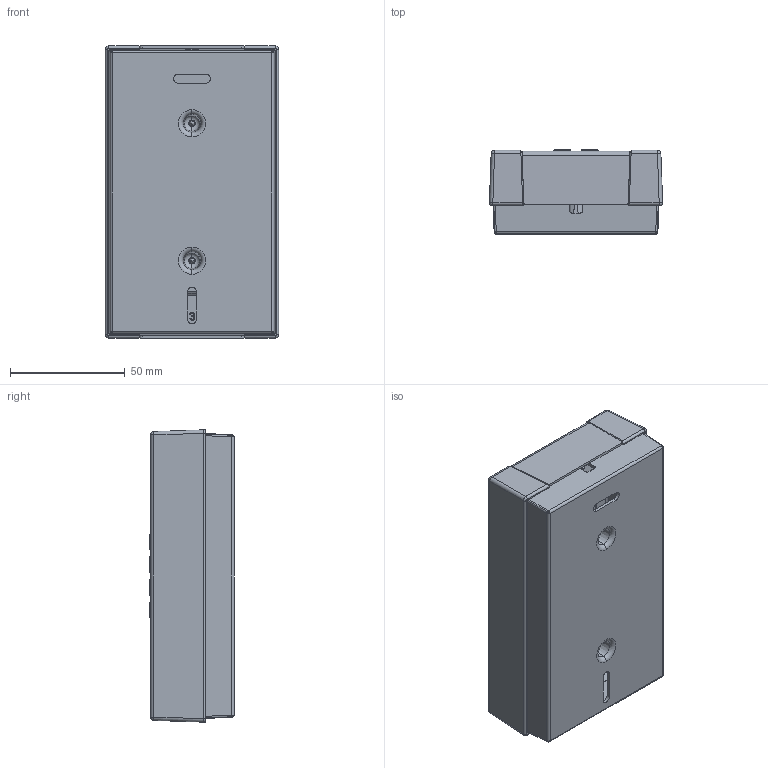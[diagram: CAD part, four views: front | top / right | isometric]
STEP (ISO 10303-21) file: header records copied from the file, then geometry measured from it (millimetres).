
FILE_DESCRIPTION (( 'STEP AP214' ), '1' );
FILE_NAME ('S11188-00001_ENTRAcode+_AP_ohne_Battriepack.STEP', '2019-04-29T07:27:44', ( '' ), ( '' ), 'SwSTEP 2.0', 'SolidWorks 2017', '' );
FILE_SCHEMA (( 'AUTOMOTIVE_DESIGN' ));
Length unit declared in the file: millimetre
Products named in the file (38): 1X06_RM209_1X06_RM20_S_X_Stiftleiste9; 1X06_RM2013_1X06_RM20_S_X_Stiftleiste13; 1X06_RM202_1X06_RM20_S_X_Stiftleiste2; 1X06_RM203_1X06_RM20_S_X_Stiftleiste3; 90688; S11188-00001_ENTRAcode+_AP_ohne_Battriepack; 90682; R04020_R0402_S_RCL0; 90398_Kernmodul; pcbs10479_tfb_reva; 90691; 1X06_RM2011_1X06_RM20_S_X_Stiftleiste11; 90694; 1X06_RM208_1X06_RM20_S_X_Stiftleiste8; PCB_5X5_V011_PCB_5X5_V01_S_Taster1; 90859; 1X06_RM2012_1X06_RM20_S_X_Stiftleiste12; ENTRAcode_Platine_komplett_2017_06; 1X06_RM206_1X06_RM20_S_X_Stiftleiste6; 50752_Blechschraube_Senkkopf_ST29x13C_A2_ISO7050_H1; 1X06_RM204_1X06_RM20_S_X_Stiftleiste4; 412_B_691412120002B; CN1JX40_CN1JX4_S_R_Netzwerk0; ENTRAsys SOMloq2 Main Board Rev5EW1; 90711; PCB_5X5_V012_PCB_5X5_V01_S_Taster2; ENTRA_Klebestreifen_3M93017LE; 90397; 90681; 90683; Stecker_Wanne; 1X06_RM201_1X06_RM20_S_X_Stiftleiste1; 1X3_RM127_SMD0_1X3_RM127_SMD_S_X_Buchsenleiste0; 1X06_RM205_1X06_RM20_S_X_Stiftleiste5; 1X06_RM2010_1X06_RM20_S_X_Stiftleiste10; 1X06_RM207_1X06_RM20_S_X_Stiftleiste7; 06030_0603_S_LED0
Assembly tree (77 placements, depth 5):
  S11188-00001_ENTRAcode+_AP_ohne_Battriepack
    90681
    90694
      90398_Kernmodul
      90397
      90688  x4
      ENTRAcode_Platine_komplett_2017_06
        ENTRAsys SOMloq2 Main Board Rev5EW1
        Stecker_Wanne
          412_B_691412120002B
          90859
        pcbs10479_tfb_reva
          pcbs10479_tfb_reva
          06030_0603_S_LED0  x5
          CN1JX40_CN1JX4_S_R_Netzwerk0  x2
          R04020_R0402_S_RCL0  x3
          PCB_5X5_V011_PCB_5X5_V01_S_Taster1  x8
          PCB_5X5_V012_PCB_5X5_V01_S_Taster2  x8
          1X06_RM201_1X06_RM20_S_X_Stiftleiste1  x2
          1X06_RM202_1X06_RM20_S_X_Stiftleiste2  x2
          1X06_RM203_1X06_RM20_S_X_Stiftleiste3  x2
          1X06_RM204_1X06_RM20_S_X_Stiftleiste4  x2
          1X06_RM205_1X06_RM20_S_X_Stiftleiste5  x2
          1X06_RM206_1X06_RM20_S_X_Stiftleiste6  x2
          1X06_RM207_1X06_RM20_S_X_Stiftleiste7  x2
          1X06_RM208_1X06_RM20_S_X_Stiftleiste8  x2
          1X06_RM209_1X06_RM20_S_X_Stiftleiste9  x2
          1X06_RM2010_1X06_RM20_S_X_Stiftleiste10  x2
          1X06_RM2011_1X06_RM20_S_X_Stiftleiste11  x2
          1X06_RM2012_1X06_RM20_S_X_Stiftleiste12  x2
          1X06_RM2013_1X06_RM20_S_X_Stiftleiste13  x2
          1X3_RM127_SMD0_1X3_RM127_SMD_S_X_Buchsenleiste0
    50752_Blechschraube_Senkkopf_ST29x13C_A2_ISO7050_H1  x2
    90682
    90711
      90683
      90691  x2
      ENTRA_Klebestreifen_3M93017LE  x2
Bounding box: 75.61 x 36.76 x 127.61 mm (x, y, z)
Volume: 78472.6 mm3; surface area: 122032.6 mm2
Topology: 70 solids, 196 shells, 4053 faces, 10360 edges, 6727 vertices
Faces by surface type: plane 2292, cylinder 783, bspline 493, cone 297, torus 166, sphere 22
Entity records: 148575 total; most frequent: CARTESIAN_POINT 48583, ORIENTED_EDGE 17779, DIRECTION 16164, EDGE_CURVE 9293, VECTOR 6082, LINE 6082, VERTEX_POINT 6034, AXIS2_PLACEMENT_3D 5041
